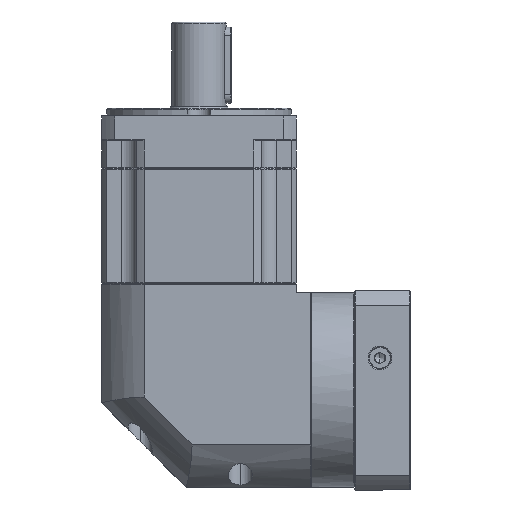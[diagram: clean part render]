
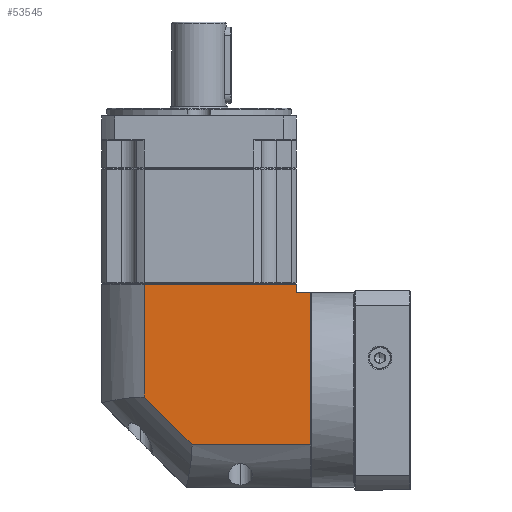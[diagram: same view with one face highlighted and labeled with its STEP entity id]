
A CAD part, left-side view. The second image highlights one B-rep face of the part: STEP entity #53545.
In plain terms, the highlighted planar face has unit normal (-1, 0, 0).
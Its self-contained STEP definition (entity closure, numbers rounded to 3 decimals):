
#14143 = EDGE_CURVE ( 'NONE', #139775, #48943, #40589, .T. ) ;
#17325 = CARTESIAN_POINT ( 'NONE',  ( -253.559, -16.061, -49.727 ) ) ;
#20828 = EDGE_CURVE ( 'NONE', #139775, #98017, #158429, .T. ) ;
#24338 = CARTESIAN_POINT ( 'NONE',  ( -253.559, -77.622, 40.173 ) ) ;
#29462 = DIRECTION ( 'NONE',  ( 0., 0., 1. ) ) ;
#30198 = DIRECTION ( 'NONE',  ( 1., 0., 0. ) ) ;
#32459 = CARTESIAN_POINT ( 'NONE',  ( -253.559, 12.277, -21.389 ) ) ;
#32854 = DIRECTION ( 'NONE',  ( 0., 0., -1. ) ) ;
#33123 = CARTESIAN_POINT ( 'NONE',  ( -253.559, -86.022, 40.173 ) ) ;
#40589 = LINE ( 'NONE', #114046, #107983 ) ;
#41562 = DIRECTION ( 'NONE',  ( 0., 1., 0. ) ) ;
#47645 = LINE ( 'NONE', #136374, #83417 ) ;
#48943 = VERTEX_POINT ( 'NONE', #150148 ) ;
#51665 = EDGE_CURVE ( 'NONE', #93334, #122684, #91661, .T. ) ;
#52208 = CARTESIAN_POINT ( 'NONE',  ( -253.559, -16.061, -49.727 ) ) ;
#53104 = DIRECTION ( 'NONE',  ( 0., 1., 0. ) ) ;
#53545 = ADVANCED_FACE ( 'NONE', ( #133778 ), #109658, .F. ) ;
#58127 = ORIENTED_EDGE ( 'NONE', *, *, #74061, .F. ) ;
#60555 = ORIENTED_EDGE ( 'NONE', *, *, #51665, .F. ) ;
#69027 = EDGE_CURVE ( 'NONE', #126283, #93334, #118220, .T. ) ;
#69446 = CARTESIAN_POINT ( 'NONE',  ( -253.559, -77.622, -74.827 ) ) ;
#74061 = EDGE_CURVE ( 'NONE', #48943, #169819, #47645, .T. ) ;
#74429 = CARTESIAN_POINT ( 'NONE',  ( -253.559, 12.277, 45.173 ) ) ;
#74850 = ORIENTED_EDGE ( 'NONE', *, *, #20828, .T. ) ;
#75677 = DIRECTION ( 'NONE',  ( 0., -1., 0. ) ) ;
#79180 = AXIS2_PLACEMENT_3D ( 'NONE', #110801, #30198, #124351 ) ;
#81173 = CARTESIAN_POINT ( 'NONE',  ( -253.559, -77.622, 45.173 ) ) ;
#83417 = VECTOR ( 'NONE', #41562, 1000. ) ;
#86070 = EDGE_LOOP ( 'NONE', ( #138924, #97495, #58127, #105776, #74850, #149603, #60555 ) ) ;
#86874 = VECTOR ( 'NONE', #53104, 1000. ) ;
#91661 = LINE ( 'NONE', #128771, #123321 ) ;
#93334 = VERTEX_POINT ( 'NONE', #74429 ) ;
#93613 = CARTESIAN_POINT ( 'NONE',  ( -253.559, 12.277, 51.673 ) ) ;
#97495 = ORIENTED_EDGE ( 'NONE', *, *, #134374, .F. ) ;
#97851 = DIRECTION ( 'NONE',  ( 0., 0.707, 0.707 ) ) ;
#98017 = VERTEX_POINT ( 'NONE', #24338 ) ;
#105776 = ORIENTED_EDGE ( 'NONE', *, *, #14143, .F. ) ;
#106425 = EDGE_CURVE ( 'NONE', #98017, #122684, #159380, .T. ) ;
#106676 = CARTESIAN_POINT ( 'NONE',  ( -253.559, -77.622, 40.173 ) ) ;
#107220 = DIRECTION ( 'NONE',  ( 0., 0., 1. ) ) ;
#107983 = VECTOR ( 'NONE', #32854, 1000. ) ;
#109658 = PLANE ( 'NONE',  #79180 ) ;
#110801 = CARTESIAN_POINT ( 'NONE',  ( -253.559, 37.378, 51.673 ) ) ;
#114046 = CARTESIAN_POINT ( 'NONE',  ( -253.559, -86.022, 51.673 ) ) ;
#118220 = LINE ( 'NONE', #93613, #149741 ) ;
#119498 = VECTOR ( 'NONE', #29462, 1000. ) ;
#122684 = VERTEX_POINT ( 'NONE', #81173 ) ;
#123321 = VECTOR ( 'NONE', #75677, 1000. ) ;
#124351 = DIRECTION ( 'NONE',  ( 0., 1., 0. ) ) ;
#125421 = LINE ( 'NONE', #17325, #161154 ) ;
#126283 = VERTEX_POINT ( 'NONE', #32459 ) ;
#128771 = CARTESIAN_POINT ( 'NONE',  ( -253.559, 37.378, 45.173 ) ) ;
#133778 = FACE_OUTER_BOUND ( 'NONE', #86070, .T. ) ;
#134374 = EDGE_CURVE ( 'NONE', #169819, #126283, #125421, .T. ) ;
#136374 = CARTESIAN_POINT ( 'NONE',  ( -253.559, 37.378, -49.727 ) ) ;
#138924 = ORIENTED_EDGE ( 'NONE', *, *, #69027, .F. ) ;
#139775 = VERTEX_POINT ( 'NONE', #33123 ) ;
#149603 = ORIENTED_EDGE ( 'NONE', *, *, #106425, .T. ) ;
#149741 = VECTOR ( 'NONE', #107220, 1000. ) ;
#150148 = CARTESIAN_POINT ( 'NONE',  ( -253.559, -86.022, -49.727 ) ) ;
#158429 = LINE ( 'NONE', #106676, #86874 ) ;
#159380 = LINE ( 'NONE', #69446, #119498 ) ;
#161154 = VECTOR ( 'NONE', #97851, 1000. ) ;
#169819 = VERTEX_POINT ( 'NONE', #52208 ) ;
